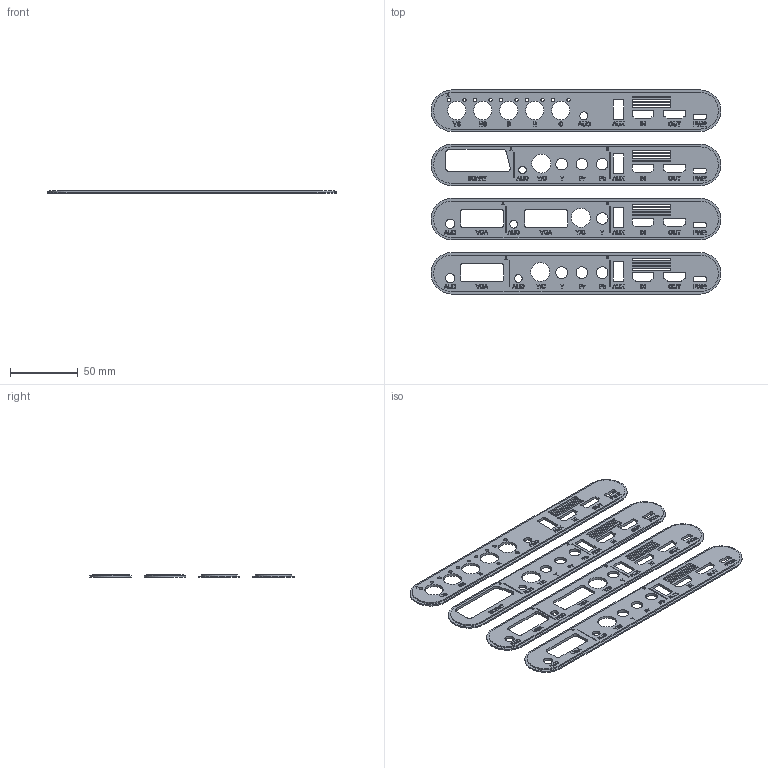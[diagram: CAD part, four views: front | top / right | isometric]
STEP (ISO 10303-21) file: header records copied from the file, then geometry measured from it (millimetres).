
FILE_DESCRIPTION(/* description */ (''),/* implementation_level */ '2;1');
FILE_NAME(/* name */ 'M4K_ANALOG_BACKPLATES.step',/* time_stamp */ '2024-07-01T07:51:12-04:00',/* author */ (''),/* organization */ (''),/* preprocessor_version */ 'ST-DEVELOPER v20',/* originating_system */ 'Autodesk Translation Framework v13.14.0.145',/* authorisation */ '');
FILE_SCHEMA (('AUTOMOTIVE_DESIGN { 1 0 10303 214 3 1 1 }'));
Products named in the file (1): N64_Flex
Bounding box: 214 x 150.6 x 2 mm (x, y, z)
Volume: 35748.8 mm3; surface area: 49229.1 mm2
Topology: 4 solids, 4 shells, 2453 faces, 6847 edges, 4561 vertices
Faces by surface type: plane 1298, bspline 924, cylinder 231
Full cylindrical faces by diameter (mm): 2.5 x10, 5.6 x3, 6 x1, 6.8 x2, 8.5 x7, 13.5 x5, 14 x3
Entity records: 86718 total; most frequent: CARTESIAN_POINT 29511, ORIENTED_EDGE 13622, DIRECTION 8475, EDGE_CURVE 6811, VERTEX_POINT 4543, LINE 4501, VECTOR 4501, EDGE_LOOP 2754
